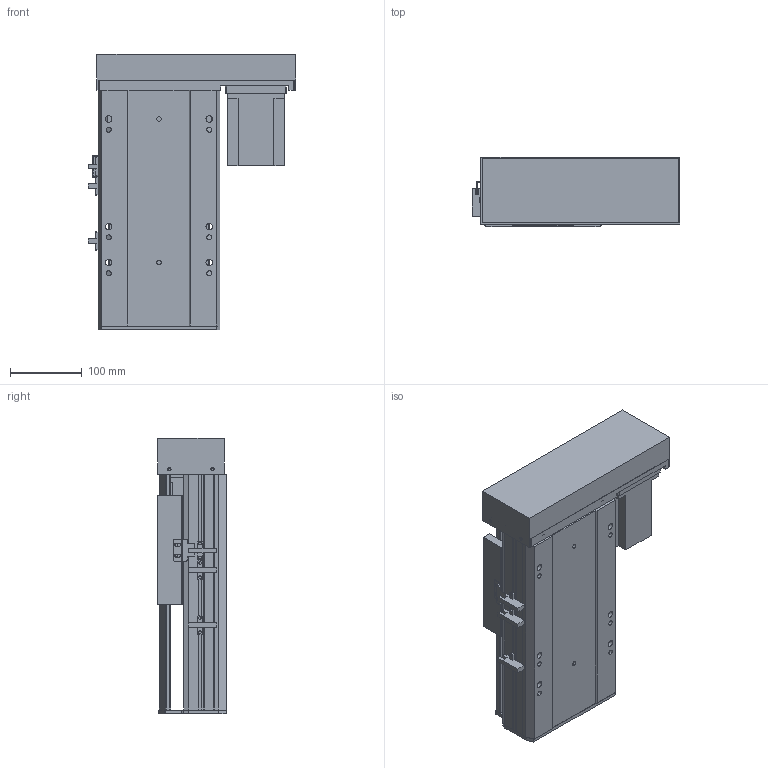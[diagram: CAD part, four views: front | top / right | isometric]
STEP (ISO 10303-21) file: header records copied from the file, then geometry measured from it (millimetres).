
FILE_DESCRIPTION (( 'STEP AP203' ), '1' );
FILE_NAME ('Y170-D10-S100-BR-P750W.STEP', '2020-01-21T11:59:23', ( '微软用户' ), ( '微软中国' ), 'SwSTEP 2.0', 'SolidWorks 2017', '' );
FILE_SCHEMA (( 'CONFIG_CONTROL_DESIGN' ));
Length unit declared in the file: millimetre
Products named in the file (12): Y170耜裔--準---; Y170-D10-S100-BR-P750W; 侂狟750W; EGH20賑輸_蕼偞; Y雄赽釱-耜蚾; Y170-陔遴奻裔-BR; Y-BL.BR-俋欶; Y--BL蟀諉啣-陔遴-; YD-Y100-135-新外置传感挡片(通用）; 170--掛极-BR; Y100-135俋离換覜ん; Y170-BL-P750W楊擘啣
Assembly tree (14 placements, depth 2):
  Y170-D10-S100-BR-P750W
    Y170耜裔--準---
    170--掛极-BR
    Y170-BL-P750W楊擘啣
    侂狟750W
    EGH20賑輸_蕼偞  x2
    Y雄赽釱-耜蚾
    Y170-陔遴奻裔-BR
    Y-BL.BR-俋欶
    Y--BL蟀諉啣-陔遴-
    YD-Y100-135-新外置传感挡片(通用）
    Y100-135俋离換覜ん  x3
Bounding box: 289 x 97 x 383.5 mm (x, y, z)
Volume: 2733277.7 mm3; surface area: 852164.5 mm2
Topology: 14 solids, 14 shells, 885 faces, 2450 edges, 1616 vertices
Faces by surface type: plane 443, cylinder 426, cone 16
Entity records: 27450 total; most frequent: CARTESIAN_POINT 4694, DIRECTION 4588, ORIENTED_EDGE 4396, EDGE_CURVE 2198, AXIS2_PLACEMENT_3D 1618, VERTEX_POINT 1460, LINE 1352, VECTOR 1352
